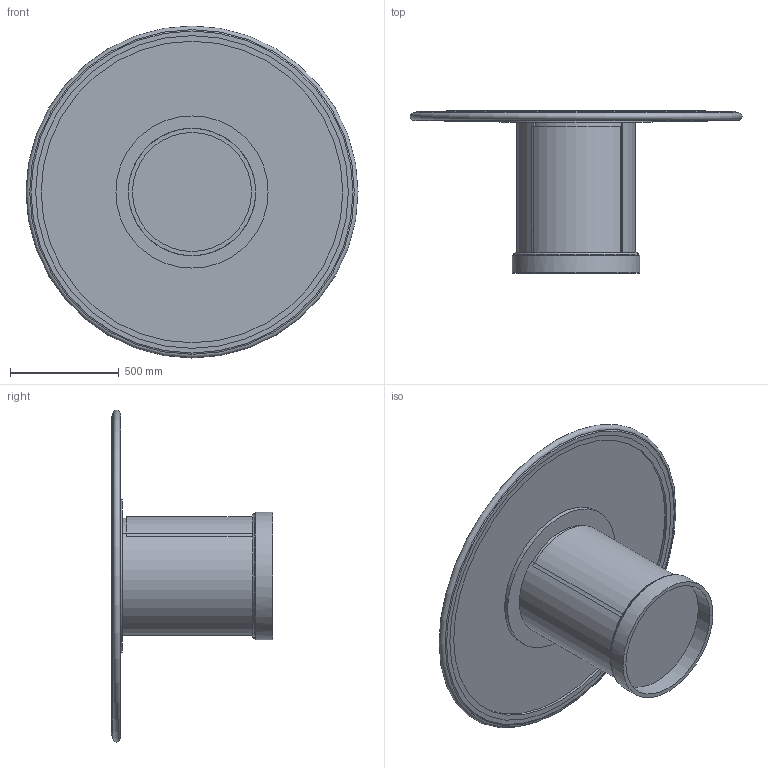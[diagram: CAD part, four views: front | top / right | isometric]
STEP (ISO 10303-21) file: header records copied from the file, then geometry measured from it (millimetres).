
FILE_DESCRIPTION(/* description */ ('','CAx-IF Rec.Pracs.---Representation and Presentation of Product Manufacturing Information (PMI)---4.0---2014-10-13'),/* implementation_level */ '2;1');
FILE_NAME(/* name */ 'TABLE_CAMBRIDGE 1.stp',/* time_stamp */ '2024-12-07T17:23:25-05:00',/* author */ ('mbowman'),/* organization */ (''),/* preprocessor_version */ 'ST-DEVELOPER v19.2',/* originating_system */ 'Autodesk Inventor 2023',/* authorisation */ '');
FILE_SCHEMA (('AP242_MANAGED_MODEL_BASED_3D_ENGINEERING_MIM_LF { 1 0 10303 442 1 1 4 }'));
Length unit declared in the file: inch
Products named in the file (15): CAMBRIDGE^TABLE 1_60 ROUND-ASSEMBLY; CAMBRIDGE^TABLE 1_60 ROUND-TOP; CAMBRIDGE^TABLE 1_60 ROUND-TOP SOLID; CAMBRIDGE^TABLE 1_60 ROUND-TOP BLOCKING; CAMBRIDGE^TABLE 1_60 ROUND-SUB TOP; CAMBRIDGE^TABLE 1_60 ROUND-BASE SHELL; CAMBRIDGE^TABLE 1_60 ROUND-BASE TOP; CAMBRIDGE^TABLE 1_60 ROUND-BASE BOTTOM; CAMBRIDGE^TABLE 1_60 ROUND-BASE DOOR; CAMBRIDGE^TABLE 1_60 ROUND-PLINTH TOP; CAMBRIDGE^TABLE 1_60 ROUND-PLINTH SOLID; CAMBRIDGE^TABLE 1_60 ROUND-BACK PARTITION; CAMBRIDGE^TABLE 1_60 ROUND-SIDE PARTITION; BALAST BLOCK; BALLAST BLOCK BRACKET - (H-577)
Assembly tree (19 placements, depth 2):
  CAMBRIDGE^TABLE 1_60 ROUND-ASSEMBLY
    CAMBRIDGE^TABLE 1_60 ROUND-TOP
    CAMBRIDGE^TABLE 1_60 ROUND-TOP SOLID
    CAMBRIDGE^TABLE 1_60 ROUND-TOP BLOCKING
    CAMBRIDGE^TABLE 1_60 ROUND-SUB TOP
    CAMBRIDGE^TABLE 1_60 ROUND-BASE SHELL
    CAMBRIDGE^TABLE 1_60 ROUND-BASE TOP
    CAMBRIDGE^TABLE 1_60 ROUND-BASE BOTTOM
    CAMBRIDGE^TABLE 1_60 ROUND-BASE DOOR
    CAMBRIDGE^TABLE 1_60 ROUND-PLINTH TOP
    CAMBRIDGE^TABLE 1_60 ROUND-PLINTH SOLID
    CAMBRIDGE^TABLE 1_60 ROUND-SIDE PARTITION  x2
    CAMBRIDGE^TABLE 1_60 ROUND-BACK PARTITION
    BALAST BLOCK  x2
    BALLAST BLOCK BRACKET - (H-577)  x4
Bounding box: 1523.96 x 742.95 x 1523.96 mm (x, y, z)
Volume: 114305766 mm3; surface area: 10845341.7 mm2
Topology: 19 solids, 19 shells, 142 faces, 305 edges, 202 vertices
Faces by surface type: plane 103, cylinder 32, torus 3, bspline 3, cone 1
Full cylindrical faces by diameter (mm): 4.762 x12, 530.225 x2, 546.1 x2, 558.779 x1, 584.2 x1, 698.5 x1, 1384.3 x1, 1435.1 x3, 1492.25 x1
Entity records: 4288 total; most frequent: CARTESIAN_POINT 802, DIRECTION 787, ORIENTED_EDGE 340, AXIS2_PLACEMENT_3D 337, EDGE_CURVE 170, LINE 113, VECTOR 113, VERTEX_POINT 112
